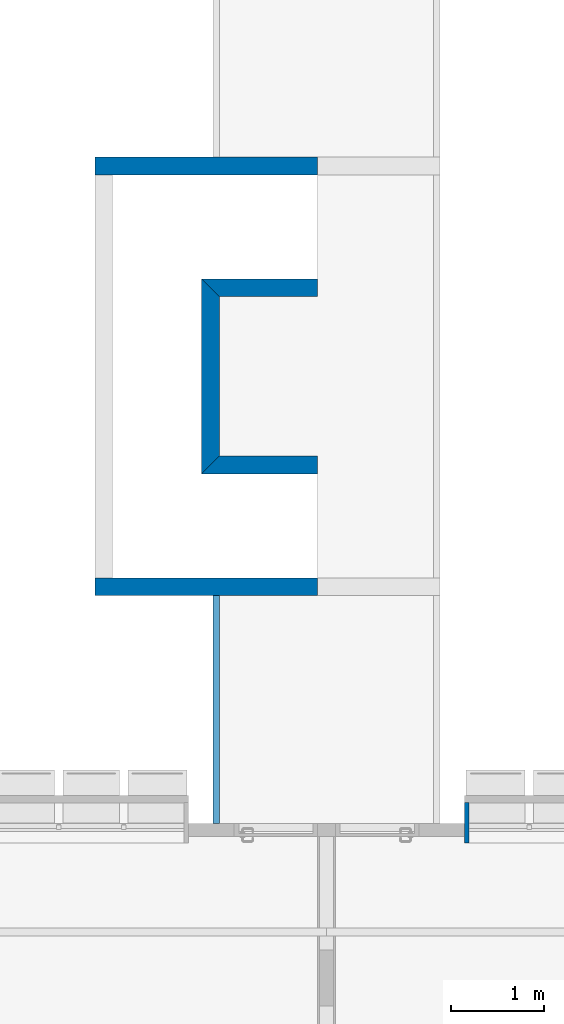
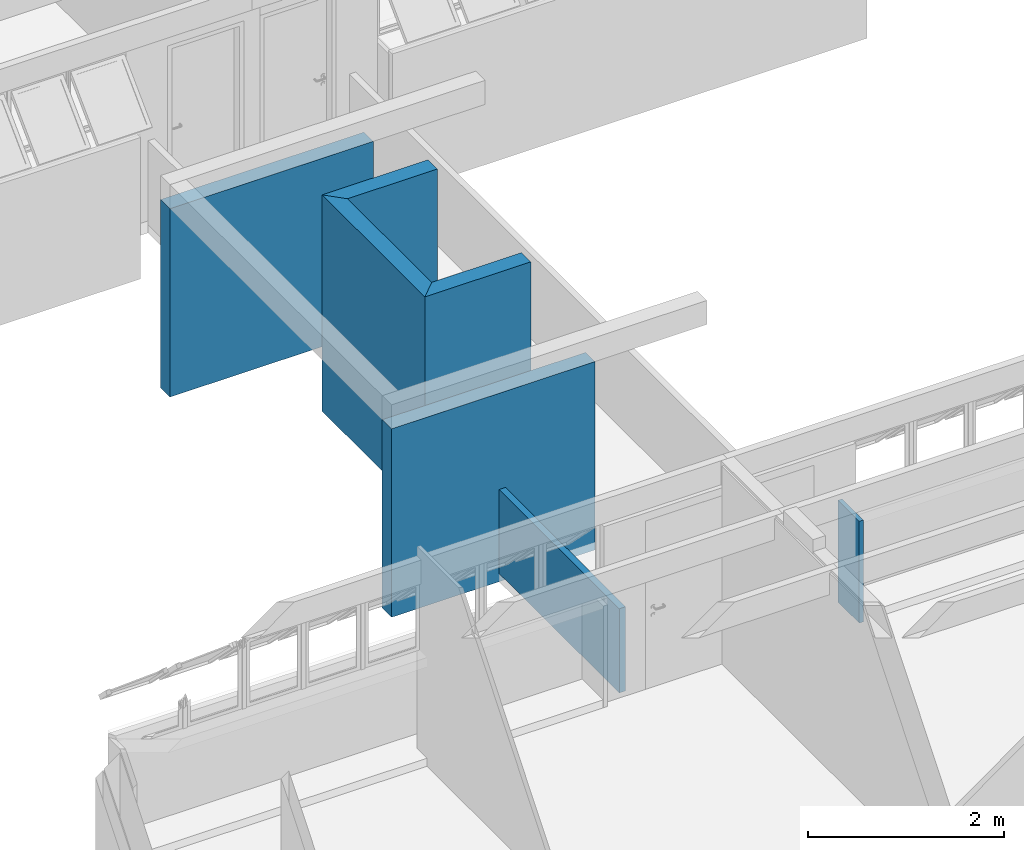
# One storey, part 28 of 40: 7 walls.
"""IFC4 building model written with IfcOpenShell, lengths in millimetres."""

import ifcopenshell
import ifcopenshell.guid

model = None  # the IFC model being written
_history = None  # IfcOwnerHistory: only IFC2X3 demands one
_inside = {}  # id of a spatial element -> (the spatial element, [elements in it])
_under = {}  # id of a project, library or spatial element -> (it, [spatial elements below it])
_declared = {}  # id of a project -> (the project, [libraries it declares])
_typed = {}  # id of a type object -> (the type object, [elements of that type])
_made_of = {}  # id of a material, layer set ... -> (it, [elements and type objects made of it])


def new_model(schema):
    """Start an empty IFC model of exactly this schema.

    Asked for "IFC4X3", IfcOpenShell would pick the latest addendum, in which some entities
    have other attributes; the version numbers below select the first issue.
    IFC2X3 requires an IfcOwnerHistory on every rooted entity: one is made here for all.
    """
    global model, _history
    if schema == "IFC4X3":
        model = ifcopenshell.file(schema_version=(4, 3, 0, 0))
    else:
        model = ifcopenshell.file(schema=schema)
    _inside.clear()
    _under.clear()
    _declared.clear()
    _typed.clear()
    _made_of.clear()
    _history = None
    if model.schema == "IFC2X3":
        org = make("IfcOrganization", Name="unknown")
        user = make(
            "IfcPersonAndOrganization",
            ThePerson=make("IfcPerson", FamilyName="unknown"),
            TheOrganization=org,
        )
        app = make(
            "IfcApplication",
            ApplicationDeveloper=org,
            Version="unknown",
            ApplicationFullName="unknown",
            ApplicationIdentifier="unknown",
        )
        _history = make(
            "IfcOwnerHistory",
            OwningUser=user,
            OwningApplication=app,
            ChangeAction="ADDED",
            CreationDate=0,
        )
    return model


def make(cls, **values):
    """One entity of the class cls with the attributes given. An attribute that is None is left unset."""
    return model.create_entity(
        cls, **{name: value for name, value in values.items() if value is not None}
    )


def entity(cls, *values):
    """Any entity or typed value of the class cls, its attributes in the order of the schema. None: left unset."""
    e = model.create_entity(cls)
    for i, value in enumerate(values):
        if value is not None:
            e[i] = value
    return e


def rooted(cls, **values):
    """An entity with a GlobalId (a new one), such as an element, a storey or a relation."""
    return make(cls, GlobalId=ifcopenshell.guid.new(), OwnerHistory=_history, **values)


def si_unit(unit_type, name, prefix=None):
    """IfcSIUnit, for example si_unit("LENGTHUNIT", "METRE", prefix="MILLI")."""
    return make("IfcSIUnit", UnitType=unit_type, Prefix=prefix, Name=name)


def converted_unit(unit_type, name, factor, base, dimensions=None, offset=None):
    """IfcConversionBasedUnit, such as the inch: factor (a typed value) times the base unit."""
    return make(
        "IfcConversionBasedUnit"
        if offset is None
        else "IfcConversionBasedUnitWithOffset",
        ConversionOffset=offset,
        Dimensions=None
        if dimensions is None
        else entity("IfcDimensionalExponents", *dimensions),
        UnitType=unit_type,
        Name=name,
        ConversionFactor=make(
            "IfcMeasureWithUnit", ValueComponent=factor, UnitComponent=base
        ),
    )


def derived_unit(unit_type, elements):
    """IfcDerivedUnit: a product of units, each with its exponent."""
    return make(
        "IfcDerivedUnit",
        Elements=[
            make("IfcDerivedUnitElement", Unit=unit, Exponent=power)
            for unit, power in elements
        ],
        UnitType=unit_type,
    )


def assignment(units):
    """IfcUnitAssignment: the units of a project."""
    return None if units is None else make("IfcUnitAssignment", Units=units)


def point(xyz):
    """IfcCartesianPoint."""
    return None if xyz is None else make("IfcCartesianPoint", Coordinates=xyz)


def direction(xyz):
    """IfcDirection."""
    return None if xyz is None else make("IfcDirection", DirectionRatios=xyz)


def frame(location, z_axis=None, x_axis=None):
    """IfcAxis2Placement3D, a coordinate frame: its origin and axes. An axis left out is left unset."""
    return make(
        "IfcAxis2Placement3D",
        Location=point(location),
        Axis=direction(z_axis),
        RefDirection=direction(x_axis),
    )


def origin_with_axes():
    """The frame at (0, 0, 0) with the z axis (0, 0, 1) and the x axis (1, 0, 0) written out."""
    return frame((0.0, 0.0, 0.0), z_axis=(0.0, 0.0, 1.0), x_axis=(1.0, 0.0, 0.0))


def place(relative_to, where):
    """IfcLocalPlacement: puts the frame where relative to a parent placement (None: the world)."""
    return make(
        "IfcLocalPlacement", PlacementRelTo=relative_to, RelativePlacement=where
    )


def context(
    kind, dimensions, precision=None, world=None, true_north=None, identifier=None
):
    """IfcGeometricRepresentationContext, for example the 3D "Model" context."""
    return make(
        "IfcGeometricRepresentationContext",
        ContextIdentifier=identifier,
        ContextType=kind,
        CoordinateSpaceDimension=dimensions,
        Precision=precision,
        WorldCoordinateSystem=world,
        TrueNorth=true_north,
    )


def subcontext(parent, identifier, kind, view, scale=None):
    """IfcGeometricRepresentationSubContext, for example "Body" below "Model"."""
    return make(
        "IfcGeometricRepresentationSubContext",
        ContextIdentifier=identifier,
        ContextType=kind,
        ParentContext=parent,
        TargetScale=scale,
        TargetView=view,
    )


def project(units=None, contexts=None):
    """IfcProject with its units and contexts."""
    return rooted(
        "IfcProject",
        Name="project",
        RepresentationContexts=contexts,
        UnitsInContext=assignment(units),
    )


def spatial(cls, under=None, at=None, **own):
    """A site, building, storey or space (cls), placed at a placement, below another one or the project."""
    s = rooted(cls, ObjectPlacement=at, **own)
    if under is not None:
        _under.setdefault(under.id(), (under, []))[1].append(s)
    return s


def point_list(points):
    """IfcCartesianPointList2D or 3D."""
    cls = (
        "IfcCartesianPointList2D" if len(points[0]) == 2 else "IfcCartesianPointList3D"
    )
    return make(cls, CoordList=points)


def line(*indices):
    """IfcLineIndex: a straight run through numbered points of an indexed curve."""
    return model.create_entity("IfcLineIndex", indices)


def indexed_curve(points, segments=None, self_intersect=None):
    """IfcIndexedPolyCurve: lines and arcs through numbered points (the first is 1)."""
    return make(
        "IfcIndexedPolyCurve",
        Points=point_list(points),
        Segments=segments,
        SelfIntersect=self_intersect,
    )


def outline(outer, holes=None, kind="AREA"):
    """IfcArbitraryClosedProfileDef: a profile drawn as a closed curve; with holes, ...WithVoids."""
    if holes is None:
        return make("IfcArbitraryClosedProfileDef", ProfileType=kind, OuterCurve=outer)
    return make(
        "IfcArbitraryProfileDefWithVoids",
        ProfileType=kind,
        OuterCurve=outer,
        InnerCurves=holes,
    )


def extrude(swept, where, along, depth):
    """IfcExtrudedAreaSolid: the profile swept, set in the frame where, extruded along a direction by depth."""
    return make(
        "IfcExtrudedAreaSolid",
        SweptArea=swept,
        Position=where,
        ExtrudedDirection=direction(along),
        Depth=depth,
    )


def shape(context_of_items, identifier, shape_type, items):
    """IfcShapeRepresentation: the items that make up one representation, for example the "Body"."""
    return make(
        "IfcShapeRepresentation",
        ContextOfItems=context_of_items,
        RepresentationIdentifier=identifier,
        RepresentationType=shape_type,
        Items=items,
    )


def material(Name=None, Category=None):
    """IfcMaterial."""
    return make("IfcMaterial", Name=Name, Category=Category)


def layer(
    of_material, thickness, ventilated=None, Name=None, Category=None, Priority=None
):
    """IfcMaterialLayer: one layer of a wall or slab, of a material (None: an air gap)."""
    return make(
        "IfcMaterialLayer",
        Material=of_material,
        LayerThickness=thickness,
        IsVentilated=ventilated,
        Name=Name,
        Category=Category,
        Priority=Priority,
    )


def layer_set(layers, Name=None):
    """IfcMaterialLayerSet."""
    return make("IfcMaterialLayerSet", MaterialLayers=layers, LayerSetName=Name)


def layer_usage(for_layer_set, set_direction, sense, offset, extent=None):
    """IfcMaterialLayerSetUsage: how a layer set lies in its element."""
    return make(
        "IfcMaterialLayerSetUsage",
        ForLayerSet=for_layer_set,
        LayerSetDirection=set_direction,
        DirectionSense=sense,
        OffsetFromReferenceLine=offset,
        ReferenceExtent=extent,
    )


def made_of(thing, what):
    """Note that an element or type object is made of a material, layer set ...; save() writes the relation."""
    if what is not None:
        _made_of.setdefault(what.id(), (what, []))[1].append(thing)
    return thing


def type_object(cls, material=None, **own):
    """A type object (cls), such as IfcWallType, which elements share."""
    return made_of(rooted(cls, **own), material)


def element(
    cls,
    number,
    at=None,
    inside=None,
    cuts=None,
    type_object=None,
    material=None,
    context=None,
    identifier="Body",
    shape_type=None,
    held_by="IfcProductDefinitionShape",
    body=None,
    shapes=None,
    **own,
):
    """One element of the class cls, such as IfcWall. Its Tag is "e" and its number.

    at: its placement. inside: the storey or other place that contains it. cuts: it is an
    opening in that element (IfcRelVoidsElement). A single representation is given by context,
    identifier, shape_type and body (its items); several are given by shapes. held_by: the class
    of the entity that holds the representations. save() writes the other relations.
    """
    e = rooted(cls, Tag="e%d" % number, ObjectPlacement=at, **own)
    if body is not None:
        shapes = [shape(context, identifier, shape_type, body)]
    if shapes is not None:
        e.Representation = make(held_by, Representations=shapes)
    if inside is not None:
        _inside.setdefault(inside.id(), (inside, []))[1].append(e)
    if cuts is not None:
        rooted(
            "IfcRelVoidsElement", RelatingBuildingElement=cuts, RelatedOpeningElement=e
        )
    if type_object is not None:
        _typed.setdefault(type_object.id(), (type_object, []))[1].append(e)
    return made_of(e, material)


def aggregate(whole, parts):
    """IfcRelAggregates: a whole, such as a stair, and the parts it consists of."""
    return rooted("IfcRelAggregates", RelatingObject=whole, RelatedObjects=parts)


def save(model, path):
    """Write the relations noted so far, then the file.

    IfcRelAggregates (storeys below a building ...), IfcRelContainedInSpatialStructure (elements
    in a storey), IfcRelDefinesByType, IfcRelAssociatesMaterial and IfcRelDeclares: one each for
    every whole, place, type object, material and project.
    """
    for whole, parts in _under.values():
        aggregate(whole, parts)
    for where, things in _inside.values():
        rooted(
            "IfcRelContainedInSpatialStructure",
            RelatedElements=things,
            RelatingStructure=where,
        )
    for kind, things in _typed.values():
        rooted("IfcRelDefinesByType", RelatedObjects=things, RelatingType=kind)
    for what, things in _made_of.values():
        rooted("IfcRelAssociatesMaterial", RelatedObjects=things, RelatingMaterial=what)
    for by, libraries in _declared.values():
        rooted("IfcRelDeclares", RelatingContext=by, RelatedDefinitions=libraries)
    model.write(path)


model = new_model("IFC4")

# Units and contexts
model_context = context("Model", 3, precision=0.01, world=origin_with_axes(), true_north=direction((0.0, 1.0)))
body_context = subcontext(model_context, "Body", "Model", "MODEL_VIEW")
ifc_project = project(units=[si_unit("LENGTHUNIT", "METRE", prefix="MILLI"), si_unit("AREAUNIT", "SQUARE_METRE"), si_unit("VOLUMEUNIT", "CUBIC_METRE"), converted_unit("PLANEANGLEUNIT", "DEGREE", entity("IfcPlaneAngleMeasure", 0.0174532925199), si_unit("PLANEANGLEUNIT", "RADIAN"), dimensions=[0, 0, 0, 0, 0, 0, 0]), converted_unit("TIMEUNIT", "Year", entity("IfcTimeMeasure", 31556926.0), si_unit("TIMEUNIT", "SECOND"), dimensions=[0, 0, 1, 0, 0, 0, 0]), si_unit("MASSUNIT", "GRAM", prefix="KILO"), si_unit("THERMODYNAMICTEMPERATUREUNIT", "DEGREE_CELSIUS"), si_unit("LUMINOUSINTENSITYUNIT", "LUMEN"), si_unit("ENERGYUNIT", "JOULE", prefix="MEGA"), derived_unit("THERMALCONDUCTANCEUNIT", [(si_unit("POWERUNIT", "WATT"), 1), (si_unit("LENGTHUNIT", "METRE"), -1), (si_unit("THERMODYNAMICTEMPERATUREUNIT", "KELVIN"), -1)]), derived_unit("SPECIFICHEATCAPACITYUNIT", [(si_unit("ENERGYUNIT", "JOULE"), 1), (si_unit("MASSUNIT", "GRAM", prefix="KILO"), -1), (si_unit("THERMODYNAMICTEMPERATUREUNIT", "KELVIN"), -1)]), derived_unit("MASSDENSITYUNIT", [(si_unit("MASSUNIT", "GRAM", prefix="KILO"), 1), (si_unit("VOLUMEUNIT", "CUBIC_METRE"), -1)])], contexts=[model_context])

# Site, building, storey
site_placement = place(None, origin_with_axes())
site = spatial("IfcSite", under=ifc_project, at=site_placement, Name="Local", CompositionType="ELEMENT")
building_placement = place(site_placement, origin_with_axes())
building = spatial("IfcBuilding", under=site, at=building_placement, Name="Construção", CompositionType="ELEMENT")
storey_placement = place(building_placement, frame((0.0, 0.0, 5300.0), z_axis=(0.0, 0.0, 1.0), x_axis=(1.0, 0.0, 0.0)))
storey = spatial("IfcBuildingStorey", under=building, at=storey_placement, Name="Terceiro Pavimento", CompositionType="ELEMENT", Elevation=5300.0)

# Walls
ifc_material_1 = material(Name="GENÉRICO - VEDAÇÃO EXTERNA")
ifc_layer_1 = layer(ifc_material_1, 190.0, ventilated="UNKNOWN", Name="GENÉRICO - VEDAÇÃO EXTERNA")
ifc_layer_set_1 = layer_set([ifc_layer_1], Name="GENÉRICO - VEDAÇÃO EXTERNA 190")
ifc_layer_usage_1 = layer_usage(ifc_layer_set_1, "AXIS2", "NEGATIVE", 0.0)
wall_type_1 = type_object("IfcWallType", Name="GENÉRICO - VEDAÇÃO EXTERNA 190", PredefinedType="NOTDEFINED")
wall_1_placement = place(storey_placement, frame((4890.0, 15440.0, -150.0), z_axis=(0.0, 0.0, 1.0), x_axis=(1.0, 0.0, 0.0)))
element("IfcWall", 1, at=wall_1_placement, inside=storey, type_object=wall_type_1, material=ifc_layer_usage_1, Name="CIRC3-PAREDE-030", PredefinedType="NOTDEFINED", context=body_context, shape_type="SweptSolid", body=[
    extrude(outline(indexed_curve([(0.0, -190.0), (2400.0, -190.0), (2400.0, 0.0), (0.0, 0.0)], segments=[line(1, 2, 3, 4, 1)])), origin_with_axes(), (0.0, 0.0, 1.0), 2350.0),
])
ifc_layer_usage_2 = layer_usage(ifc_layer_set_1, "AXIS2", "NEGATIVE", 0.0)
wall_2_placement = place(storey_placement, frame((4890.0, 10910.0, -150.0), z_axis=(0.0, 0.0, 1.0), x_axis=(1.0, 0.0, 0.0)))
element("IfcWall", 2, at=wall_2_placement, inside=storey, type_object=wall_type_1, material=ifc_layer_usage_2, Name="CIRC3-PAREDE-031", PredefinedType="NOTDEFINED", context=body_context, shape_type="SweptSolid", body=[
    extrude(outline(indexed_curve([(0.0, -190.0), (2400.0, -190.0), (2400.0, 0.0), (0.0, 0.0)], segments=[line(1, 2, 3, 4, 1)])), origin_with_axes(), (0.0, 0.0, 1.0), 2350.0),
])
ifc_material_2 = material(Name="Concreto Armado Moldado in Loco - Estrutural")
ifc_layer_2 = layer(ifc_material_2, 190.0, ventilated="UNKNOWN", Name="Concreto Armado Moldado in Loco - Estrutural")
ifc_layer_set_2 = layer_set([ifc_layer_2], Name="Concreto Armado Moldado in Loco - Estrutural 190")
ifc_layer_usage_3 = layer_usage(ifc_layer_set_2, "AXIS2", "NEGATIVE", 0.0)
wall_type_2 = type_object("IfcWallType", Name="Concreto Armado Moldado in Loco - Estrutural 190", PredefinedType="NOTDEFINED")
wall_3_placement = place(storey_placement, frame((6230.0, 12220.0, -50.0), z_axis=(0.0, 0.0, 1.0), x_axis=(1.0, 0.0, 0.0)))
element("IfcWall", 3, at=wall_3_placement, inside=storey, type_object=wall_type_2, material=ifc_layer_usage_3, Name="CIRC3-PAREDE-033", PredefinedType="NOTDEFINED", context=body_context, shape_type="SweptSolid", body=[
    extrude(outline(indexed_curve([(-190.0, -190.0), (1060.0, -190.0), (1060.0, 0.0), (0.0, 0.0)], segments=[line(1, 2, 3, 4, 1)])), origin_with_axes(), (0.0, 0.0, 1.0), 2700.0),
])
ifc_layer_usage_4 = layer_usage(ifc_layer_set_2, "AXIS2", "NEGATIVE", 0.0)
wall_4_placement = place(storey_placement, frame((7290.0, 13940.0, -50.0), z_axis=(0.0, 0.0, 1.0), x_axis=(-1.0, 0.0, 0.0)))
element("IfcWall", 4, at=wall_4_placement, inside=storey, type_object=wall_type_2, material=ifc_layer_usage_4, Name="CIRC3-PAREDE-034", PredefinedType="NOTDEFINED", context=body_context, shape_type="SweptSolid", body=[
    extrude(outline(indexed_curve([(0.0, -190.0), (1250.0, -190.0), (1060.0, 0.0), (0.0, 0.0)], segments=[line(1, 2, 3, 4, 1)])), origin_with_axes(), (0.0, 0.0, 1.0), 2700.0),
])
ifc_layer_usage_5 = layer_usage(ifc_layer_set_2, "AXIS2", "NEGATIVE", 0.0)
wall_5_placement = place(storey_placement, frame((6230.0, 13940.0, -50.0), z_axis=(0.0, 0.0, 1.0), x_axis=(0.0, -1.0, 0.0)))
element("IfcWall", 5, at=wall_5_placement, inside=storey, type_object=wall_type_2, material=ifc_layer_usage_5, Name="CIRC3-PAREDE-032", PredefinedType="NOTDEFINED", context=body_context, shape_type="SweptSolid", body=[
    extrude(outline(indexed_curve([(-190.0, -190.0), (1910.0, -190.0), (1720.0, 0.0), (0.0, 0.0)], segments=[line(1, 2, 3, 4, 1)])), origin_with_axes(), (0.0, 0.0, 1.0), 2700.0),
])
ifc_layer_3 = layer(ifc_material_2, 50.0, ventilated="UNKNOWN", Name="Concreto Armado Moldado in Loco - Estrutural")
ifc_layer_set_3 = layer_set([ifc_layer_3], Name="Concreto Armado Moldado in Loco - Estrutural 50")
ifc_layer_usage_6 = layer_usage(ifc_layer_set_3, "AXIS2", "NEGATIVE", 50.0)
wall_type_3 = type_object("IfcWallType", Name="Concreto Armado Moldado in Loco - Estrutural 50", PredefinedType="NOTDEFINED")
wall_6_placement = place(storey_placement, frame((8920.0, 8054.99999866, 0.0), z_axis=(0.0, 0.0, 1.0), x_axis=(0.0, 1.0, 0.0)))
element("IfcWall", 6, at=wall_6_placement, inside=storey, type_object=wall_type_3, material=ifc_layer_usage_6, Name="APTO10-PAREDE-016", PredefinedType="NOTDEFINED", context=body_context, shape_type="SweptSolid", body=[
    extrude(outline(indexed_curve([(0.0, 0.0), (435.0, 0.0), (435.0, 50.0), (0.0, 50.0)], segments=[line(1, 2, 3, 4, 1)])), origin_with_axes(), (0.0, 0.0, 1.0), 1270.0),
])
ifc_layer_4 = layer(ifc_material_1, 75.0, ventilated="UNKNOWN", Name="GENÉRICO - VEDAÇÃO EXTERNA")
ifc_layer_set_4 = layer_set([ifc_layer_4], Name="GENÉRICO - VEDAÇÃO EXTERNA 75")
ifc_layer_usage_7 = layer_usage(ifc_layer_set_4, "AXIS2", "NEGATIVE", 0.0)
wall_type_4 = type_object("IfcWallType", Name="GENÉRICO - VEDAÇÃO EXTERNA 75", PredefinedType="NOTDEFINED")
wall_7_placement = place(storey_placement, frame((6160.0, 8265.0, -50.0), z_axis=(0.0, 0.0, 1.0), x_axis=(0.0, 1.0, 0.0)))
element("IfcWall", 7, at=wall_7_placement, inside=storey, type_object=wall_type_4, material=ifc_layer_usage_7, Name="CIRC3-PAREDE-035", PredefinedType="NOTDEFINED", context=body_context, shape_type="SweptSolid", body=[
    extrude(outline(indexed_curve([(0.0, -75.0), (2455.0, -75.0), (2455.0, 0.0), (0.0, 0.0)], segments=[line(1, 2, 3, 4, 1)])), origin_with_axes(), (0.0, 0.0, 1.0), 1050.0),
])

save(model, "model.ifc")
